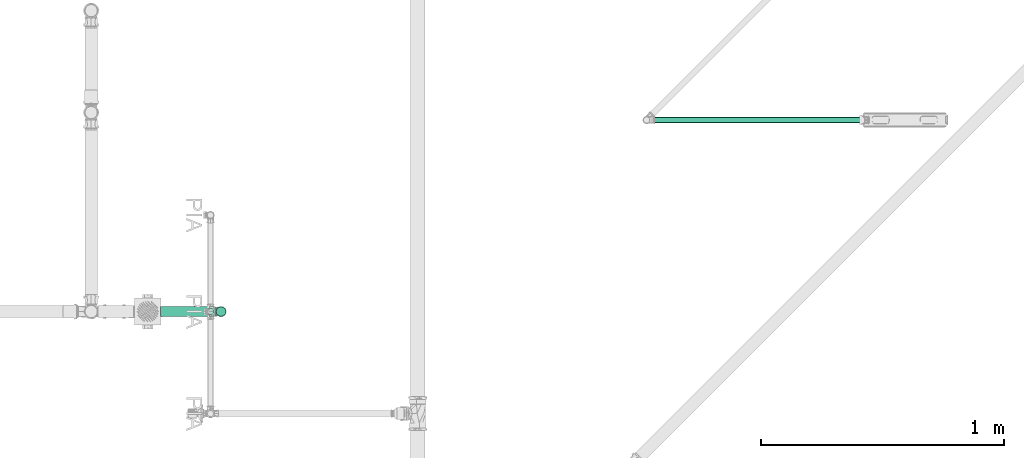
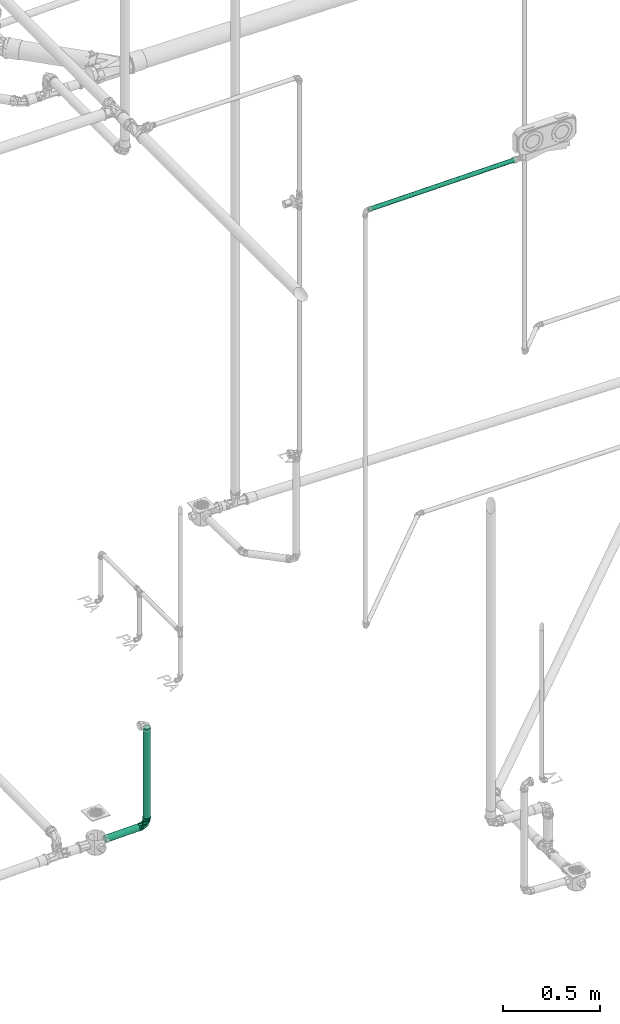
# One storey, part 130 of 589: 3 flow segments, 1 flow fitting.
"""IFC2X3 building model written with IfcOpenShell, lengths in millimetres."""

import ifcopenshell
import ifcopenshell.guid

model = None  # the IFC model being written
_history = None  # IfcOwnerHistory: only IFC2X3 demands one
_inside = {}  # id of a spatial element -> (the spatial element, [elements in it])
_under = {}  # id of a project, library or spatial element -> (it, [spatial elements below it])
_declared = {}  # id of a project -> (the project, [libraries it declares])
_typed = {}  # id of a type object -> (the type object, [elements of that type])
_made_of = {}  # id of a material, layer set ... -> (it, [elements and type objects made of it])


def new_model(schema):
    """Start an empty IFC model of exactly this schema.

    Asked for "IFC4X3", IfcOpenShell would pick the latest addendum, in which some entities
    have other attributes; the version numbers below select the first issue.
    IFC2X3 requires an IfcOwnerHistory on every rooted entity: one is made here for all.
    """
    global model, _history
    if schema == "IFC4X3":
        model = ifcopenshell.file(schema_version=(4, 3, 0, 0))
    else:
        model = ifcopenshell.file(schema=schema)
    _inside.clear()
    _under.clear()
    _declared.clear()
    _typed.clear()
    _made_of.clear()
    _history = None
    if model.schema == "IFC2X3":
        org = make("IfcOrganization", Name="unknown")
        user = make(
            "IfcPersonAndOrganization",
            ThePerson=make("IfcPerson", FamilyName="unknown"),
            TheOrganization=org,
        )
        app = make(
            "IfcApplication",
            ApplicationDeveloper=org,
            Version="unknown",
            ApplicationFullName="unknown",
            ApplicationIdentifier="unknown",
        )
        _history = make(
            "IfcOwnerHistory",
            OwningUser=user,
            OwningApplication=app,
            ChangeAction="ADDED",
            CreationDate=0,
        )
    return model


def make(cls, **values):
    """One entity of the class cls with the attributes given. An attribute that is None is left unset."""
    return model.create_entity(
        cls, **{name: value for name, value in values.items() if value is not None}
    )


def entity(cls, *values):
    """Any entity or typed value of the class cls, its attributes in the order of the schema. None: left unset."""
    e = model.create_entity(cls)
    for i, value in enumerate(values):
        if value is not None:
            e[i] = value
    return e


def rooted(cls, **values):
    """An entity with a GlobalId (a new one), such as an element, a storey or a relation."""
    return make(cls, GlobalId=ifcopenshell.guid.new(), OwnerHistory=_history, **values)


def si_unit(unit_type, name, prefix=None):
    """IfcSIUnit, for example si_unit("LENGTHUNIT", "METRE", prefix="MILLI")."""
    return make("IfcSIUnit", UnitType=unit_type, Prefix=prefix, Name=name)


def converted_unit(unit_type, name, factor, base, dimensions=None, offset=None):
    """IfcConversionBasedUnit, such as the inch: factor (a typed value) times the base unit."""
    return make(
        "IfcConversionBasedUnit"
        if offset is None
        else "IfcConversionBasedUnitWithOffset",
        ConversionOffset=offset,
        Dimensions=None
        if dimensions is None
        else entity("IfcDimensionalExponents", *dimensions),
        UnitType=unit_type,
        Name=name,
        ConversionFactor=make(
            "IfcMeasureWithUnit", ValueComponent=factor, UnitComponent=base
        ),
    )


def derived_unit(unit_type, elements):
    """IfcDerivedUnit: a product of units, each with its exponent."""
    return make(
        "IfcDerivedUnit",
        Elements=[
            make("IfcDerivedUnitElement", Unit=unit, Exponent=power)
            for unit, power in elements
        ],
        UnitType=unit_type,
    )


def assignment(units):
    """IfcUnitAssignment: the units of a project."""
    return None if units is None else make("IfcUnitAssignment", Units=units)


def point(xyz):
    """IfcCartesianPoint."""
    return None if xyz is None else make("IfcCartesianPoint", Coordinates=xyz)


def direction(xyz):
    """IfcDirection."""
    return None if xyz is None else make("IfcDirection", DirectionRatios=xyz)


def frame(location, z_axis=None, x_axis=None):
    """IfcAxis2Placement3D, a coordinate frame: its origin and axes. An axis left out is left unset."""
    return make(
        "IfcAxis2Placement3D",
        Location=point(location),
        Axis=direction(z_axis),
        RefDirection=direction(x_axis),
    )


def frame_2d(location, x_axis=None):
    """IfcAxis2Placement2D, a coordinate frame in the plane: its origin and x axis."""
    return make(
        "IfcAxis2Placement2D", Location=point(location), RefDirection=direction(x_axis)
    )


def origin():
    """The frame at (0, 0, 0) with its axes left unset."""
    return frame((0.0, 0.0, 0.0))


def origin_2d_with_axis():
    """The frame at (0, 0) in the plane with the x axis (1, 0) written out."""
    return frame_2d((0.0, 0.0), x_axis=(1.0, 0.0))


def place(relative_to, where):
    """IfcLocalPlacement: puts the frame where relative to a parent placement (None: the world)."""
    return make(
        "IfcLocalPlacement", PlacementRelTo=relative_to, RelativePlacement=where
    )


def context(
    kind, dimensions, precision=None, world=None, true_north=None, identifier=None
):
    """IfcGeometricRepresentationContext, for example the 3D "Model" context."""
    return make(
        "IfcGeometricRepresentationContext",
        ContextIdentifier=identifier,
        ContextType=kind,
        CoordinateSpaceDimension=dimensions,
        Precision=precision,
        WorldCoordinateSystem=world,
        TrueNorth=true_north,
    )


def subcontext(parent, identifier, kind, view, scale=None):
    """IfcGeometricRepresentationSubContext, for example "Body" below "Model"."""
    return make(
        "IfcGeometricRepresentationSubContext",
        ContextIdentifier=identifier,
        ContextType=kind,
        ParentContext=parent,
        TargetScale=scale,
        TargetView=view,
    )


def project(units=None, contexts=None):
    """IfcProject with its units and contexts."""
    return rooted(
        "IfcProject",
        Name="project",
        RepresentationContexts=contexts,
        UnitsInContext=assignment(units),
    )


def spatial(cls, under=None, at=None, **own):
    """A site, building, storey or space (cls), placed at a placement, below another one or the project."""
    s = rooted(cls, ObjectPlacement=at, **own)
    if under is not None:
        _under.setdefault(under.id(), (under, []))[1].append(s)
    return s


def profile(cls, at=None, kind="AREA", **sizes):
    """A parametric profile (cls). Its sizes go by their IFC names, for example OverallWidth=200.0."""
    return make(cls, ProfileType=kind, Position=at, **sizes)


def circle(**sizes):
    """IfcCircleProfileDef."""
    return profile("IfcCircleProfileDef", **sizes)


def extrude(swept, where, along, depth):
    """IfcExtrudedAreaSolid: the profile swept, set in the frame where, extruded along a direction by depth."""
    return make(
        "IfcExtrudedAreaSolid",
        SweptArea=swept,
        Position=where,
        ExtrudedDirection=direction(along),
        Depth=depth,
    )


def faces_of(points, faces, orient=None, outer=None):
    """IfcFace entities. A face is a list of loops; a loop is a list of indices into points, from 0.

    orient and outer hold one flag for each loop. By default every Orientation is true, the
    first loop of a face is its IfcFaceOuterBound and the others are IfcFaceBound.
    """
    made = []
    for i, loops in enumerate(faces):
        bounds = []
        for j, loop in enumerate(loops):
            is_outer = j == 0 if outer is None else outer[i][j]
            bounds.append(
                make(
                    "IfcFaceOuterBound" if is_outer else "IfcFaceBound",
                    Bound=make("IfcPolyLoop", Polygon=[points[k] for k in loop]),
                    Orientation=True if orient is None else orient[i][j],
                )
            )
        made.append(make("IfcFace", Bounds=bounds))
    return made


def faceted_brep(points, faces, orient=None, outer=None, voids=None):
    """IfcFacetedBrep: a solid bounded by flat faces; with voids (closed shells), ...WithVoids."""
    shared = [point(p) for p in points]
    hull = make("IfcClosedShell", CfsFaces=faces_of(shared, faces, orient, outer))
    if voids is None:
        return make("IfcFacetedBrep", Outer=hull)
    return make(
        "IfcFacetedBrepWithVoids",
        Outer=hull,
        Voids=[
            make(cls, CfsFaces=faces_of(shared, fs, o, b)) for cls, fs, o, b in voids
        ],
    )


def shape(context_of_items, identifier, shape_type, items):
    """IfcShapeRepresentation: the items that make up one representation, for example the "Body"."""
    return make(
        "IfcShapeRepresentation",
        ContextOfItems=context_of_items,
        RepresentationIdentifier=identifier,
        RepresentationType=shape_type,
        Items=items,
    )


def source(mapping_origin, context_of_items, identifier, shape_type, items):
    """IfcRepresentationMap: a shape defined once, which mapped items show again and again."""
    return make(
        "IfcRepresentationMap",
        MappingOrigin=mapping_origin,
        MappedRepresentation=shape(context_of_items, identifier, shape_type, items),
    )


def transform(
    local_origin,
    x_axis=None,
    y_axis=None,
    z_axis=None,
    scale=None,
    scale2=None,
    scale3=None,
    uniform=True,
):
    """IfcCartesianTransformationOperator3D, or its non-uniform kind. x_axis, y_axis, z_axis: its Axis1, 2, 3."""
    if uniform:
        return make(
            "IfcCartesianTransformationOperator3D",
            Axis1=direction(x_axis),
            Axis2=direction(y_axis),
            LocalOrigin=point(local_origin),
            Scale=scale,
            Axis3=direction(z_axis),
        )
    return make(
        "IfcCartesianTransformationOperator3DnonUniform",
        Axis1=direction(x_axis),
        Axis2=direction(y_axis),
        LocalOrigin=point(local_origin),
        Scale=scale,
        Axis3=direction(z_axis),
        Scale2=scale2,
        Scale3=scale3,
    )


def mapped(mapping_source, mapping_target):
    """IfcMappedItem: shows the shape of a source again, moved by a transform."""
    return make(
        "IfcMappedItem", MappingSource=mapping_source, MappingTarget=mapping_target
    )


def material(Name=None, Category=None):
    """IfcMaterial."""
    return make("IfcMaterial", Name=Name, Category=Category)


def made_of(thing, what):
    """Note that an element or type object is made of a material, layer set ...; save() writes the relation."""
    if what is not None:
        _made_of.setdefault(what.id(), (what, []))[1].append(thing)
    return thing


def type_object(cls, material=None, **own):
    """A type object (cls), such as IfcWallType, which elements share."""
    return made_of(rooted(cls, **own), material)


def type_shapes(of_type, sources):
    """Give a type object the sources (RepresentationMaps) that its elements show as mapped items."""
    of_type.RepresentationMaps = sources


def element(
    cls,
    number,
    at=None,
    inside=None,
    cuts=None,
    type_object=None,
    material=None,
    context=None,
    identifier="Body",
    shape_type=None,
    held_by="IfcProductDefinitionShape",
    body=None,
    shapes=None,
    **own,
):
    """One element of the class cls, such as IfcWall. Its Tag is "e" and its number.

    at: its placement. inside: the storey or other place that contains it. cuts: it is an
    opening in that element (IfcRelVoidsElement). A single representation is given by context,
    identifier, shape_type and body (its items); several are given by shapes. held_by: the class
    of the entity that holds the representations. save() writes the other relations.
    """
    e = rooted(cls, Tag="e%d" % number, ObjectPlacement=at, **own)
    if body is not None:
        shapes = [shape(context, identifier, shape_type, body)]
    if shapes is not None:
        e.Representation = make(held_by, Representations=shapes)
    if inside is not None:
        _inside.setdefault(inside.id(), (inside, []))[1].append(e)
    if cuts is not None:
        rooted(
            "IfcRelVoidsElement", RelatingBuildingElement=cuts, RelatedOpeningElement=e
        )
    if type_object is not None:
        _typed.setdefault(type_object.id(), (type_object, []))[1].append(e)
    return made_of(e, material)


def aggregate(whole, parts):
    """IfcRelAggregates: a whole, such as a stair, and the parts it consists of."""
    return rooted("IfcRelAggregates", RelatingObject=whole, RelatedObjects=parts)


def save(model, path):
    """Write the relations noted so far, then the file.

    IfcRelAggregates (storeys below a building ...), IfcRelContainedInSpatialStructure (elements
    in a storey), IfcRelDefinesByType, IfcRelAssociatesMaterial and IfcRelDeclares: one each for
    every whole, place, type object, material and project.
    """
    for whole, parts in _under.values():
        aggregate(whole, parts)
    for where, things in _inside.values():
        rooted(
            "IfcRelContainedInSpatialStructure",
            RelatedElements=things,
            RelatingStructure=where,
        )
    for kind, things in _typed.values():
        rooted("IfcRelDefinesByType", RelatedObjects=things, RelatingType=kind)
    for what, things in _made_of.values():
        rooted("IfcRelAssociatesMaterial", RelatedObjects=things, RelatingMaterial=what)
    for by, libraries in _declared.values():
        rooted("IfcRelDeclares", RelatingContext=by, RelatedDefinitions=libraries)
    model.write(path)


model = new_model("IFC2X3")

# Units and contexts
model_context = context("Model", 3, precision=0.01, world=origin(), true_north=direction((6.123031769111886e-17, 1.0)))
body_context = subcontext(model_context, "Body", "Model", "MODEL_VIEW")
ifc_project = project(units=[si_unit("LENGTHUNIT", "METRE", prefix="MILLI"), si_unit("AREAUNIT", "SQUARE_METRE"), si_unit("VOLUMEUNIT", "CUBIC_METRE"), converted_unit("PLANEANGLEUNIT", "DEGREE", entity("IfcRatioMeasure", 0.017453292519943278), si_unit("PLANEANGLEUNIT", "RADIAN"), dimensions=[0, 0, 0, 0, 0, 0, 0]), si_unit("MASSUNIT", "GRAM", prefix="KILO"), derived_unit("MASSDENSITYUNIT", [(si_unit("MASSUNIT", "GRAM", prefix="KILO"), 1), (si_unit("LENGTHUNIT", "METRE"), -3)]), derived_unit("IONCONCENTRATIONUNIT", [(si_unit("MASSUNIT", "GRAM", prefix="KILO"), 1), (si_unit("LENGTHUNIT", "METRE"), -3)]), derived_unit("MOMENTOFINERTIAUNIT", [(si_unit("LENGTHUNIT", "METRE"), 4)]), si_unit("TIMEUNIT", "SECOND"), si_unit("FREQUENCYUNIT", "HERTZ"), si_unit("THERMODYNAMICTEMPERATUREUNIT", "DEGREE_CELSIUS"), derived_unit("THERMALTRANSMITTANCEUNIT", [(si_unit("MASSUNIT", "GRAM", prefix="KILO"), 1), (si_unit("THERMODYNAMICTEMPERATUREUNIT", "KELVIN"), -1), (si_unit("TIMEUNIT", "SECOND"), -3)]), derived_unit("THERMALCONDUCTANCEUNIT", [(si_unit("MASSUNIT", "GRAM", prefix="KILO"), 1), (si_unit("THERMODYNAMICTEMPERATUREUNIT", "KELVIN"), -1), (si_unit("TIMEUNIT", "SECOND"), -3), (si_unit("LENGTHUNIT", "METRE"), 1)]), derived_unit("VOLUMETRICFLOWRATEUNIT", [(si_unit("LENGTHUNIT", "METRE"), 3), (si_unit("TIMEUNIT", "SECOND"), -1)]), derived_unit("MASSFLOWRATEUNIT", [(si_unit("MASSUNIT", "GRAM", prefix="KILO"), 1), (si_unit("TIMEUNIT", "SECOND"), -1)]), derived_unit("ROTATIONALFREQUENCYUNIT", [(si_unit("TIMEUNIT", "SECOND"), -1)]), si_unit("ELECTRICCURRENTUNIT", "AMPERE"), si_unit("ELECTRICVOLTAGEUNIT", "VOLT"), si_unit("POWERUNIT", "WATT"), si_unit("FORCEUNIT", "NEWTON", prefix="KILO"), si_unit("ILLUMINANCEUNIT", "LUX"), si_unit("LUMINOUSFLUXUNIT", "LUMEN"), si_unit("LUMINOUSINTENSITYUNIT", "CANDELA"), derived_unit("USERDEFINED", [(si_unit("MASSUNIT", "GRAM", prefix="KILO"), -1), (si_unit("LENGTHUNIT", "METRE"), -2), (si_unit("TIMEUNIT", "SECOND"), 3), (si_unit("LUMINOUSFLUXUNIT", "LUMEN"), 1)]), derived_unit("USERDEFINED", [(si_unit("MASSUNIT", "GRAM", prefix="KILO"), 1), (si_unit("TIMEUNIT", "SECOND"), -3), (si_unit("LENGTHUNIT", "METRE"), 3), (si_unit("ELECTRICCURRENTUNIT", "AMPERE"), -2)]), derived_unit("SOUNDPOWERUNIT", [(si_unit("MASSUNIT", "GRAM", prefix="KILO"), 1), (si_unit("TIMEUNIT", "SECOND"), -3), (si_unit("LENGTHUNIT", "METRE"), 2)]), derived_unit("SOUNDPRESSUREUNIT", [(si_unit("MASSUNIT", "GRAM", prefix="KILO"), 1), (si_unit("LENGTHUNIT", "METRE"), -1), (si_unit("TIMEUNIT", "SECOND"), -2)]), derived_unit("LINEARVELOCITYUNIT", [(si_unit("LENGTHUNIT", "METRE"), 1), (si_unit("TIMEUNIT", "SECOND"), -1)]), si_unit("PRESSUREUNIT", "PASCAL"), derived_unit("USERDEFINED", [(si_unit("MASSUNIT", "GRAM", prefix="KILO"), 1), (si_unit("LENGTHUNIT", "METRE"), -2), (si_unit("TIMEUNIT", "SECOND"), -2)]), derived_unit("LINEARFORCEUNIT", [(si_unit("MASSUNIT", "GRAM", prefix="KILO"), 1), (si_unit("TIMEUNIT", "SECOND"), -2)]), derived_unit("PLANARFORCEUNIT", [(si_unit("MASSUNIT", "GRAM", prefix="KILO"), 1), (si_unit("LENGTHUNIT", "METRE"), -1), (si_unit("TIMEUNIT", "SECOND"), -2)]), derived_unit("SPECIFICHEATCAPACITYUNIT", [(si_unit("THERMODYNAMICTEMPERATUREUNIT", "KELVIN"), -1), (si_unit("LENGTHUNIT", "METRE"), 2), (si_unit("TIMEUNIT", "SECOND"), -2)]), derived_unit("HEATINGVALUEUNIT", [(si_unit("LENGTHUNIT", "METRE"), 2), (si_unit("TIMEUNIT", "SECOND"), -2)]), derived_unit("VAPORPERMEABILITYUNIT", [(si_unit("LENGTHUNIT", "METRE"), -1), (si_unit("TIMEUNIT", "SECOND"), 1)]), derived_unit("DYNAMICVISCOSITYUNIT", [(si_unit("MASSUNIT", "GRAM", prefix="KILO"), 1), (si_unit("TIMEUNIT", "SECOND"), -1), (si_unit("LENGTHUNIT", "METRE"), -1)]), derived_unit("THERMALEXPANSIONCOEFFICIENTUNIT", [(si_unit("THERMODYNAMICTEMPERATUREUNIT", "KELVIN"), -1)]), derived_unit("MODULUSOFELASTICITYUNIT", [(si_unit("MASSUNIT", "GRAM", prefix="KILO"), 1), (si_unit("LENGTHUNIT", "METRE"), -1), (si_unit("TIMEUNIT", "SECOND"), -2)]), derived_unit("ISOTHERMALMOISTURECAPACITYUNIT", [(si_unit("LENGTHUNIT", "METRE"), 3), (si_unit("MASSUNIT", "GRAM", prefix="KILO"), -1)]), derived_unit("MOISTUREDIFFUSIVITYUNIT", [(si_unit("TIMEUNIT", "SECOND"), -1), (si_unit("LENGTHUNIT", "METRE"), 2)])], contexts=[model_context])

# Site, building, storey
site_placement = place(None, origin())
site = spatial("IfcSite", under=ifc_project, at=site_placement, Name="Default", CompositionType="ELEMENT")
building_placement = place(site_placement, origin())
building = spatial("IfcBuilding", under=site, at=building_placement, CompositionType="ELEMENT")
storey_placement = place(building_placement, frame((0.0, 0.0, 100.0)))
storey = spatial("IfcBuildingStorey", under=building, at=storey_placement, Name="TÉRREO", CompositionType="ELEMENT", Elevation=100.0)

# Flow segments
pipe_segment_type_1 = type_object("IfcPipeSegmentType", Name="Tipos de tubos:PVC Esgoto Série Normal", PredefinedType="NOTDEFINED")
flow_segment_1_placement = place(storey_placement, origin())
element("IfcFlowSegment", 1, at=flow_segment_1_placement, inside=storey, type_object=pipe_segment_type_1, Name="Tipos de tubos:PVC Esgoto Série Normal", ObjectType="Tipos de tubos:PVC Esgoto Série Normal", context=body_context, shape_type="SweptSolid", body=[
    extrude(circle(Radius=20.0, at=frame_2d((1.353583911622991e-13, -1.6916415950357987e-14), x_axis=(1.0, 0.0))), frame((2985.7622651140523, 697.7290075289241, -187.41516176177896), z_axis=(0.9998000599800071, 0.0, 0.01999600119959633), x_axis=(0.0, 1.0, 0.0)), (0.0, 0.0, 1.0), 216.4612513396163),
])
flow_segment_2_placement = place(storey_placement, origin())
element("IfcFlowSegment", 2, at=flow_segment_2_placement, inside=storey, type_object=pipe_segment_type_1, Name="Tipos de tubos:PVC Esgoto Série Normal", ObjectType="Tipos de tubos:PVC Esgoto Série Normal", context=body_context, shape_type="SweptSolid", body=[
    extrude(circle(Radius=20.0, at=origin_2d_with_axis()), frame((3234.3797973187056, 697.729007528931, -150.23681171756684)), (0.0, 0.0, 1.0), 580.0368256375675),
])

# Flow fitting
ifc_material = material(Name="PVC Branco")
pipe_fitting_type = type_object("IfcPipeFittingType", Name="PVC Esgoto_Curva 90° Curta:a. Série Normal", PredefinedType="NOTDEFINED", material=ifc_material)
shared_shape = source(origin(), body_context, "Body", "Brep", [
    faceted_brep([(17.961036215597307, 31.85321923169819, 10.0), (20.63999240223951, 31.79964010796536, 0.0), (17.961036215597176, 31.853219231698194, -10.0), (5.819337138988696, 32.09605321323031, -19.318516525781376), (-4.531354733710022, 32.30306705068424, -19.31851652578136), (-16.67305381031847, 32.545901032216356, -10.0), (-19.352009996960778, 32.59948015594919, 0.0), (-16.673053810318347, 32.54590103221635, 10.0), (-4.531354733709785, 32.303067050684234, 19.318516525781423), (5.819337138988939, 32.096053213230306, 19.318516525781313), (19.378093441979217, 29.02431814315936, 6.84041311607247), (15.905813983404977, 29.093763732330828, 12.855768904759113), (20.584003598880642, 29.000199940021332, 0.0), (7.427001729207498, 29.263339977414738, 18.793865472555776), (0.5880023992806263, 29.40011996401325, 20.0), (-12.265223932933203, 29.657184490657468, 15.320851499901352), (-18.202100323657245, 29.775922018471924, 6.840381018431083), (-19.407998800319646, 29.800039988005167, 0.0), (-6.251109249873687, 29.536902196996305, 18.79382458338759), (-18.202100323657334, 29.775922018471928, -6.840381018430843), (-14.729853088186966, 29.70647707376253, -12.855716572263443), (-6.25110924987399, 29.53690219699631, -18.79382458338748), (0.588002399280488, 29.40011996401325, -20.0), (13.441163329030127, 29.143056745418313, -15.32090639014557), (19.378093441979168, 29.02431814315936, -6.8404131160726), (7.427001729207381, 29.263339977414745, -18.79386547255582), (-11.35075352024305, -12.626805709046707, 0.0), (-29.405999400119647, -18.793848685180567, 6.8404131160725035), (-29.405999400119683, -19.396924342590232, 3.420206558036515), (-29.405999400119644, -20.0, 0.0), (-29.40599940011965, -15.320874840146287, 12.855768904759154), (-29.405999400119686, -17.057361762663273, 9.848091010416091), (-2.3339581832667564, 2.3811033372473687, 18.02101843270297), (-29.40599940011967, -6.840366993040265, 18.793865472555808), (-29.405999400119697, -11.080620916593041, 15.824817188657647), (-29.405999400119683, 0.0, 20.0), (-29.40599940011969, -3.420183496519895, 19.396932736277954), (-12.878045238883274, 13.138181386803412, 18.95216884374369), (12.851249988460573, 11.095996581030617, 0.0), (5.594072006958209, -5.707072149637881, 0.0), (-29.405999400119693, 6.840479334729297, 18.79382458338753), (-29.405999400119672, 3.4202396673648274, 19.396912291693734), (-29.405999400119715, 18.793860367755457, 6.840381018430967), (-29.405999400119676, 15.824828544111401, 11.080616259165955), (-29.405999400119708, 12.855796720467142, 15.320851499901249), (-22.405985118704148, 22.858585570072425, 0.0), (-29.40599940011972, 20.0, 0.0), (-29.405999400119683, 19.396930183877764, 3.4201905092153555), (-29.405999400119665, 9.848138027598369, 17.0573380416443), (-14.138248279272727, 14.423838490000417, -18.24666465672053), (-29.405999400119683, 0.0, -20.0), (-29.40599940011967, 3.4202396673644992, -19.396912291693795), (-29.405999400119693, 6.840479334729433, -18.79382458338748), (-29.405999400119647, -18.79384868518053, -6.840413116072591), (-29.40599940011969, -15.824789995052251, -11.080659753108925), (-29.405999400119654, -12.85573130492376, -15.32090639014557), (-2.333957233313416, 2.3811024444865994, -18.021017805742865), (-29.405999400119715, 18.793860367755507, -6.840381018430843), (-29.405999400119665, 11.080699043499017, -15.824770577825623), (-29.405999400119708, 15.320918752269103, -12.855716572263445), (-29.405999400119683, -19.396924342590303, -3.420206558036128), (-29.405999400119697, -9.848049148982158, -17.0573859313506), (-29.40599940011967, -6.840366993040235, -18.79386547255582), (-29.40599940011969, -3.420183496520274, -19.396932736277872), (-29.405999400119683, 19.39693018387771, -3.4201905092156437), (-29.405999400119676, 17.05738956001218, -9.848048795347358), (-30.20599940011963, -8.21241269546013, -16.988887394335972), (-30.20599940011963, -11.248444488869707, -14.659258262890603), (-30.20599940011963, -14.28447628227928, -12.329629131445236), (-30.20599940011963, -17.320508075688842, -10.0), (-30.20599940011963, -18.66025403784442, -5.0), (-30.20599940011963, -20.0, 0.0), (-30.20599940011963, -18.660254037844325, 5.0), (-30.20599940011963, -17.320508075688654, 10.0), (-30.20599940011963, -14.284476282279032, 12.329629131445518), (-30.20599940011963, -11.248444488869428, 14.659258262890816), (-30.20599940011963, -8.21241269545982, 16.988887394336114), (-30.20599940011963, -5.1763809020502, 19.318516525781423), (-30.20599940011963, 0.0, 19.31851652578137), (-30.20599940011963, 5.176380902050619, 19.318516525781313), (-30.20599940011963, 8.21241269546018, 16.98888739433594), (-30.20599940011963, 11.248444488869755, 14.65925826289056), (-30.205999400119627, 14.284476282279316, 12.329629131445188), (-30.20599940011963, 17.320508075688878, 10.0), (-30.20599940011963, 18.66025403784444, 5.0), (-30.20599940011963, 20.0, 0.0), (-30.20599940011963, 18.66025403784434, -5.0), (-30.20599940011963, 17.32050807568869, -10.0), (-30.20599940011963, 14.284476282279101, -12.329629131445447), (-30.20599940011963, 11.24844448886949, -14.659258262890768), (-30.20599940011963, 8.212412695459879, -16.988887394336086), (-30.20599940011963, 5.1763809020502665, -19.318516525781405), (-30.20599940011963, 0.0, -19.318516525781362), (-30.20599940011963, -5.176380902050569, -19.318516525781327)], [[[0, 1, 2, 3, 4, 5, 6, 7, 8, 9]], [[10, 1, 0]], [[11, 0, 9]], [[12, 1, 10]], [[11, 10, 0]], [[13, 11, 9]], [[9, 14, 13]], [[15, 8, 7]], [[7, 6, 16]], [[17, 16, 6]], [[14, 8, 18]], [[15, 18, 8]], [[16, 15, 7]], [[8, 14, 9]], [[19, 6, 5]], [[20, 5, 4]], [[17, 6, 19]], [[20, 19, 5]], [[21, 20, 4]], [[4, 22, 21]], [[23, 3, 2]], [[2, 1, 24]], [[12, 24, 1]], [[22, 3, 25]], [[23, 25, 3]], [[24, 23, 2]], [[3, 22, 4]], [[26, 27, 28, 29]], [[26, 30, 31, 27]], [[32, 33, 34, 30]], [[32, 35, 36, 33]], [[35, 32, 37]], [[11, 38, 10]], [[26, 32, 30]], [[32, 39, 38]], [[37, 40, 41, 35]], [[37, 42, 43, 44]], [[45, 46, 47, 42]], [[16, 45, 42]], [[37, 44, 48, 40]], [[39, 32, 26]], [[14, 18, 37]], [[32, 11, 13]], [[14, 37, 32]], [[32, 38, 11]], [[12, 10, 38]], [[45, 16, 17]], [[37, 15, 16]], [[37, 16, 42]], [[15, 37, 18]], [[32, 13, 14]], [[49, 50, 51, 52]], [[49, 21, 22]], [[26, 53, 54, 55]], [[56, 39, 26]], [[49, 57, 19]], [[49, 52, 58, 59]], [[56, 50, 49]], [[26, 29, 60, 53]], [[56, 55, 61, 62]], [[56, 62, 63, 50]], [[26, 55, 56]], [[45, 57, 64, 46]], [[45, 17, 19]], [[24, 12, 38]], [[23, 56, 25]], [[49, 20, 21]], [[49, 19, 20]], [[56, 49, 22]], [[56, 23, 38]], [[49, 59, 65, 57]], [[38, 39, 56]], [[24, 38, 23]], [[56, 22, 25]], [[19, 57, 45]], [[66, 67, 68, 69, 70, 71, 72, 73, 74, 75, 76, 77, 78, 79, 80, 81, 82, 83, 84, 85, 86, 87, 88, 89, 90, 91, 92, 93]], [[47, 46, 85]], [[33, 77, 76]], [[80, 40, 48]], [[48, 44, 81]], [[33, 76, 34]], [[81, 80, 48]], [[84, 83, 42]], [[82, 81, 44]], [[73, 72, 27]], [[85, 84, 47]], [[78, 41, 79]], [[77, 36, 78]], [[30, 75, 74, 73]], [[73, 27, 31, 30]], [[77, 33, 36]], [[71, 28, 72]], [[44, 43, 82]], [[36, 35, 78]], [[41, 40, 79]], [[34, 76, 75]], [[43, 42, 83]], [[75, 30, 34]], [[41, 78, 35]], [[84, 42, 47]], [[80, 79, 40]], [[43, 83, 82]], [[28, 71, 29]], [[28, 27, 72]], [[60, 29, 71]], [[52, 91, 90]], [[66, 62, 61]], [[61, 55, 67]], [[52, 90, 58]], [[67, 66, 61]], [[70, 69, 53]], [[68, 67, 55]], [[87, 86, 57]], [[71, 70, 60]], [[92, 63, 93]], [[91, 51, 92]], [[59, 89, 88, 87]], [[87, 57, 65, 59]], [[91, 52, 51]], [[85, 64, 86]], [[55, 54, 68]], [[51, 50, 92]], [[63, 62, 93]], [[90, 89, 58]], [[54, 53, 69]], [[89, 59, 58]], [[63, 92, 50]], [[70, 53, 60]], [[66, 93, 62]], [[54, 69, 68]], [[64, 85, 46]], [[64, 57, 86]]]),
    faceted_brep([(-32.20599940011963, -17.320508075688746, -10.0), (-32.20599940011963, -20.0, 0.0), (-32.20599940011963, -17.320508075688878, 10.0), (-32.20599940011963, -5.176380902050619, 19.318516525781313), (-32.20599940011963, 5.1763809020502, 19.318516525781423), (-32.20599940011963, 17.320508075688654, 10.0), (-32.20599940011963, 20.0, 0.0), (-32.20599940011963, 17.320508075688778, -10.0), (-32.20599940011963, 5.17638090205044, -19.31851652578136), (-32.20599940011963, -5.176380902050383, -19.318516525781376), (-29.40599940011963, -20.0, 0.0), (-29.40599940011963, -15.320920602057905, 12.855714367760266), (-29.40599940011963, 3.4728419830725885, 19.696176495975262), (-29.40599940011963, 15.320777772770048, 12.855884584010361), (-29.40599940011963, 20.0, 0.0), (-29.40599940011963, 15.320777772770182, -12.855884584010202), (-29.405999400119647, 5.923858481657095, -16.27601124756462), (-29.40599940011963, -3.473060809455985, -19.69613791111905), (-29.40599940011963, -15.320920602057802, -12.855714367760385), (12.85124998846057, 11.095996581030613, 0.0), (19.378093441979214, 29.024318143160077, 6.8404131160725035), (16.409628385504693, 29.083687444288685, 11.080659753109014), (13.441163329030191, 29.143056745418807, 15.320906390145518), (5.594072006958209, -5.707072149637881, 0.0), (-3.0189256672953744, 1.4413580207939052, 17.919138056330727), (-11.350753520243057, -12.626805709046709, 0.0), (-13.807968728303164, 12.593198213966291, 18.87014454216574), (-6.251109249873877, 29.53690219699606, 18.793824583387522), (-10.490481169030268, 29.621689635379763, 15.824770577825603), (-14.729853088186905, 29.70647707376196, 12.855716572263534), (-22.405985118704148, 22.858585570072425, 0.0), (-18.20210032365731, 29.775922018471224, 6.84038101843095), (-18.805049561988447, 29.787981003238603, 3.4201905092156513), (-19.407998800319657, 29.80003998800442, 0.0), (7.427001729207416, 29.26333997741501, 18.793865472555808), (4.007502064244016, 29.331729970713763, 19.396932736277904), (0.5880023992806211, 29.400119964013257, 20.0), (10.434082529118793, 29.203198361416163, 17.057385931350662), (20.58400359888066, 29.000199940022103, 0.0), (19.981048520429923, 29.012259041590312, 3.420206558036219), (-2.8315534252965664, 29.46851108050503, 19.396912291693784), (-16.465976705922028, 29.74119954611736, 9.84804879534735), (-12.878069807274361, 13.13814230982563, -18.95217245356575), (-12.265223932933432, 29.657184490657, -15.32085149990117), (-9.258166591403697, 29.59704334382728, -17.057338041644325), (-6.251109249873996, 29.53690219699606, -18.79382458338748), (-18.202100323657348, 29.775922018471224, -6.840381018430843), (-2.142006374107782, 2.6554433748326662, -18.049846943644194), (-18.80504956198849, 29.787981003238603, -3.4201905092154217), (-15.233662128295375, 29.716553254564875, -11.080616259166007), (19.378093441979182, 29.02431814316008, -6.840413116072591), (19.981048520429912, 29.012259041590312, -3.4202065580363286), (0.5880023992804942, 29.400119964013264, -20.0), (4.0075020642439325, 29.331729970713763, -19.396932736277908), (7.427001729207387, 29.26333997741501, -18.79386547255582), (11.666407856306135, 29.178551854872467, -15.824817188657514), (15.905813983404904, 29.09376373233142, -12.855768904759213), (17.64195371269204, 29.05904093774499, -9.8480910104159), (-2.831553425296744, 29.46851108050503, -19.39691229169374), (-4.571346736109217, 30.303466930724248, -19.31851652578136), (-7.60677150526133, 30.364175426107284, -16.988887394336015), (-10.64219627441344, 30.424883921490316, -14.659258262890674), (-13.677621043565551, 30.48559241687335, -12.329629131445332), (-16.713045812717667, 30.54630091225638, -10.0), (-18.052523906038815, 30.573090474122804, -5.0), (-19.392001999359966, 30.599880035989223, 0.0), (-18.052523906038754, 30.573090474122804, 5.0), (-16.71304581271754, 30.54630091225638, 10.0), (-13.67762104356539, 30.48559241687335, 12.329629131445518), (-10.642196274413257, 30.424883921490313, 14.659258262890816), (-7.606771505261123, 30.364175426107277, 16.988887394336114), (-4.571346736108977, 30.303466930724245, 19.318516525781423), (0.6039992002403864, 30.199960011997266, 19.31851652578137), (5.779345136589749, 30.096453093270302, 19.318516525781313), (8.814769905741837, 30.035744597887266, 16.98888739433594), (11.85019467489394, 29.975036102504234, 14.65925826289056), (14.885619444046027, 29.9143276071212, 12.329629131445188), (17.92104421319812, 29.853619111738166, 10.0), (19.26052230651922, 29.82682954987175, 5.0), (20.60000039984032, 29.80003998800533, 0.0), (19.260522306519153, 29.82682954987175, -5.0), (17.921044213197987, 29.85361911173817, -10.0), (14.885619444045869, 29.914327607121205, -12.329629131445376), (11.850194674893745, 29.975036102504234, -14.659258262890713), (8.814769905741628, 30.03574459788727, -16.988887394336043), (5.779345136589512, 30.096453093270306, -19.318516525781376), (0.6039992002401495, 30.199960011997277, -19.31851652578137)], [[[0, 1, 2, 3, 4, 5, 6, 7, 8, 9]], [[10, 11, 2]], [[10, 2, 1]], [[2, 11, 3]], [[11, 12, 3]], [[4, 12, 13]], [[5, 13, 14]], [[13, 5, 4]], [[5, 14, 6]], [[12, 4, 3]], [[14, 15, 7]], [[14, 7, 6]], [[7, 15, 8]], [[8, 15, 16, 17]], [[9, 17, 18]], [[0, 18, 10]], [[18, 0, 9]], [[0, 10, 1]], [[17, 9, 8]], [[19, 20, 21, 22]], [[23, 24, 25]], [[26, 13, 12]], [[25, 24, 11]], [[24, 23, 19]], [[26, 27, 28, 29]], [[14, 13, 30]], [[11, 10, 25]], [[30, 31, 32, 33]], [[31, 30, 13]], [[24, 34, 35, 36]], [[24, 26, 12]], [[24, 22, 37, 34]], [[11, 24, 12]], [[19, 38, 39, 20]], [[26, 36, 40, 27]], [[13, 29, 41, 31]], [[13, 26, 29]], [[36, 26, 24]], [[22, 24, 19]], [[15, 14, 30]], [[42, 43, 44, 45]], [[15, 30, 46]], [[16, 15, 42, 17]], [[47, 25, 18]], [[47, 18, 17]], [[42, 15, 46]], [[30, 33, 48, 46]], [[42, 46, 49, 43]], [[19, 50, 51, 38]], [[47, 52, 53, 54]], [[47, 54, 55, 56]], [[42, 52, 47]], [[19, 56, 57, 50]], [[25, 47, 23]], [[19, 23, 47]], [[25, 10, 18]], [[19, 47, 56]], [[17, 42, 47]], [[42, 45, 58, 52]], [[59, 60, 61, 62, 63, 64, 65, 66, 67, 68, 69, 70, 71, 72, 73, 74, 75, 76, 77, 78, 79, 80, 81, 82, 83, 84, 85, 86]], [[39, 38, 79]], [[21, 77, 76]], [[74, 34, 37]], [[37, 22, 75]], [[79, 78, 39]], [[75, 74, 37]], [[74, 73, 34]], [[76, 75, 22]], [[22, 21, 76]], [[78, 77, 20]], [[72, 35, 73]], [[27, 70, 28]], [[29, 69, 68, 67]], [[67, 31, 41, 29]], [[71, 27, 40]], [[65, 32, 66]], [[71, 40, 72]], [[40, 36, 72]], [[67, 66, 31]], [[28, 70, 69]], [[35, 34, 73]], [[69, 29, 28]], [[35, 72, 36]], [[78, 20, 39]], [[21, 20, 77]], [[27, 71, 70]], [[32, 65, 33]], [[32, 31, 66]], [[48, 33, 65]], [[54, 85, 84]], [[60, 45, 44]], [[44, 43, 61]], [[54, 84, 55]], [[61, 60, 44]], [[64, 63, 46]], [[62, 61, 43]], [[81, 80, 50]], [[65, 64, 48]], [[86, 58, 59]], [[85, 53, 86]], [[56, 83, 82, 81]], [[81, 50, 57, 56]], [[85, 54, 53]], [[79, 51, 80]], [[43, 49, 62]], [[53, 52, 86]], [[58, 45, 59]], [[55, 84, 83]], [[49, 46, 63]], [[83, 56, 55]], [[58, 86, 52]], [[64, 46, 48]], [[60, 59, 45]], [[49, 63, 62]], [[51, 79, 38]], [[51, 50, 80]]]),
    faceted_brep([(5.819337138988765, 32.09605321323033, 19.31851652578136), (17.961036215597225, 31.853219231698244, 10.0), (20.63999240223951, 31.799640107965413, 0.0), (17.96103621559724, 31.853219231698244, -10.0), (5.8193371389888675, 32.09605321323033, -19.318516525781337), (-4.531354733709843, 32.30306705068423, -19.31851652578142), (-16.67305381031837, 32.54590103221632, -10.0), (-19.352009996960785, 32.59948015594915, 0.0), (-16.673053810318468, 32.54590103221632, 10.0), (-4.531354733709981, 32.303067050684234, 19.318516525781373), (-4.571346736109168, 30.303466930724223, 19.318516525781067), (-16.713045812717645, 30.54630091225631, 10.0), (-19.39200199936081, 30.599880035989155, 0.0), (-16.713045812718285, 30.546300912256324, -10.0), (-4.571346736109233, 30.303466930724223, -19.318516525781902), (5.779345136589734, 30.096453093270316, -19.31851652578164), (17.92104421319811, 29.853619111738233, -10.0), (20.60000039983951, 29.800039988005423, 0.0), (17.92104421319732, 29.853619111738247, 10.0), (5.779345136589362, 30.096453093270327, 19.31851652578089), (16.960145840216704, 31.873237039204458, -13.688192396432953), (21.93973248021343, 31.77364530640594, 0.0), (4.344880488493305, 32.12554234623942, -20.97588948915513), (-20.651750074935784, 32.625474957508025, 0.0), (-15.668729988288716, 32.52581455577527, -13.692285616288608), (-5.661924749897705, 32.32567845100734, -17.33408755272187), (-15.668729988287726, 32.52581455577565, 13.69228561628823), (-3.0516373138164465, 32.27347270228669, 20.976817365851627), (16.960145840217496, 31.87323703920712, 13.688192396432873), (6.954254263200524, 32.073354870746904, 17.332504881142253), (-4.507824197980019, 50.30619608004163, -20.574220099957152), (-4.171426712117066, 50.29946813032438, -19.318516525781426), (6.1792651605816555, 50.09245429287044, -19.318516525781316), (-17.438733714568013, 50.56481427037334, -10.649999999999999), (6.515662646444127, 50.0857263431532, -20.57422009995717), (-16.31312578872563, 50.54230211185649, -10.0), (-18.99208197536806, 50.59588123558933, 0.0), (-20.29182205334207, 50.62187603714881, 0.0), (-16.313125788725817, 50.54230211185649, 10.0), (-17.438733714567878, 50.56481427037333, 10.650000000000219), (-4.1714267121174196, 50.29946813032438, 19.318516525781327), (-4.5078241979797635, 50.30619608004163, 20.574220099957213), (6.179265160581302, 50.09245429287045, 19.3185165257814), (6.515662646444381, 50.08572634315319, 20.574220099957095), (18.320964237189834, 49.84962031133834, 10.0), (19.446572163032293, 49.827108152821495, 10.649999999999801), (22.299660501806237, 49.770046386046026, 0.0), (20.99992042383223, 49.796041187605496, 0.0), (19.44657216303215, 49.8271081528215, -10.650000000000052), (18.320964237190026, 49.84962031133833, -10.0)], [[[0, 1, 2, 3, 4, 5, 6, 7, 8, 9]], [[10, 11, 12, 13, 14, 15, 16, 17, 18, 19]], [[16, 15, 20]], [[17, 16, 21]], [[21, 16, 20]], [[15, 22, 20]], [[23, 13, 12]], [[24, 14, 13]], [[15, 14, 22]], [[23, 24, 13]], [[25, 22, 14, 24]], [[11, 10, 26]], [[12, 11, 23]], [[23, 11, 26]], [[10, 27, 26]], [[21, 18, 17]], [[28, 19, 18]], [[10, 19, 27]], [[21, 28, 18]], [[29, 27, 19, 28]], [[30, 31, 32]], [[31, 30, 33]], [[32, 34, 30]], [[33, 35, 31]], [[33, 36, 35]], [[36, 33, 37]], [[38, 36, 37]], [[38, 37, 39]], [[39, 40, 38]], [[39, 41, 40]], [[40, 41, 42]], [[43, 42, 41]], [[43, 44, 42]], [[44, 43, 45]], [[46, 44, 45]], [[47, 44, 46]], [[48, 47, 46]], [[48, 49, 47]], [[49, 48, 34]], [[34, 32, 49]], [[46, 45, 21]], [[45, 28, 21]], [[28, 45, 43]], [[43, 27, 29, 28]], [[26, 41, 39]], [[23, 39, 37]], [[41, 26, 27]], [[26, 39, 23]], [[41, 27, 43]], [[37, 33, 23]], [[33, 24, 23]], [[24, 33, 30]], [[30, 22, 25, 24]], [[20, 34, 48]], [[21, 48, 46]], [[34, 20, 22]], [[20, 48, 21]], [[34, 22, 30]], [[3, 2, 47, 49]], [[4, 3, 49, 32]], [[32, 31, 5, 4]], [[6, 5, 31, 35]], [[7, 6, 35, 36]], [[8, 7, 36, 38]], [[9, 8, 38, 40]], [[40, 42, 0, 9]], [[1, 0, 42, 44]], [[2, 1, 44, 47]]]),
    faceted_brep([(-50.20599940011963, -5.512845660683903, -20.574220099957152), (-50.20599940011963, -5.176380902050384, -19.318516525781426), (-50.20599940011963, 5.176380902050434, -19.318516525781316), (-50.20599940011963, -18.446341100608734, -10.649999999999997), (-50.20599940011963, 5.512845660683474, -20.57422009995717), (-50.20599940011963, -17.320508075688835, -10.0), (-50.20599940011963, -20.0, 0.0), (-50.20599940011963, -21.300000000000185, 0.0), (-50.20599940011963, -17.320508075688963, 10.0), (-50.20599940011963, -18.4463411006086, 10.650000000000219), (-50.20599940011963, -5.176380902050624, 19.318516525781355), (-50.20599940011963, -5.512845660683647, 20.574220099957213), (-50.20599940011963, 5.176380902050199, 19.318516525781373), (-50.20599940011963, 5.512845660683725, 20.574220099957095), (-50.20599940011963, 17.320508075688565, 10.0), (-50.20599940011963, 18.44634110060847, 10.649999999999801), (-50.20599940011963, 21.299999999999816, 0.0), (-50.20599940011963, 20.0, 0.0), (-50.20599940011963, 18.446341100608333, -10.650000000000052), (-50.20599940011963, 17.320508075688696, -10.0), (-32.20599940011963, 21.299999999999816, 0.0), (-32.205999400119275, 16.319417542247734, 13.688192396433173), (-32.205999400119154, 3.701629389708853, 20.975889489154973), (-32.20599940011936, -16.315983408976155, 13.692285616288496), (-32.20599940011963, -21.300000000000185, 0.0), (-32.20599940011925, -6.307177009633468, 17.334087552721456), (-32.20599940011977, -16.31598340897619, -13.692285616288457), (-32.20599940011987, -3.6963675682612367, -20.976817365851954), (-32.2059994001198, 16.319417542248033, -13.688192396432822), (-32.20599940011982, 6.311524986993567, -17.332504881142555), (-32.20599940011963, -5.176380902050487, 19.31851652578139), (-32.20599940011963, 5.176380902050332, 19.318516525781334), (-32.20599940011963, 17.320508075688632, 10.0), (-32.20599940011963, 20.0, 0.0), (-32.20599940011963, 17.320508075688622, -10.0), (-32.20599940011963, 5.176380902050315, -19.318516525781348), (-32.20599940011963, -5.1763809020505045, -19.318516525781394), (-32.20599940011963, -17.3205080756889, -10.0), (-32.20599940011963, -20.0, 0.0), (-32.20599940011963, -17.32050807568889, 10.0), (-30.20599940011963, -5.176380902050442, 19.31851652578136), (-30.20599940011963, -17.320508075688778, 10.0), (-30.20599940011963, -20.0, 0.0), (-30.20599940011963, -17.320508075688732, -10.0), (-30.20599940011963, -5.176380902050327, -19.318516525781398), (-30.20599940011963, 5.176380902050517, -19.318516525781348), (-30.20599940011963, 17.320508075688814, -10.0), (-30.20599940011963, 20.0, 0.0), (-30.20599940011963, 17.320508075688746, 10.0), (-30.20599940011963, 5.176380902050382, 19.318516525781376)], [[[0, 1, 2]], [[1, 0, 3]], [[2, 4, 0]], [[3, 5, 1]], [[3, 6, 5]], [[6, 3, 7]], [[8, 6, 7]], [[8, 7, 9]], [[9, 10, 8]], [[9, 11, 10]], [[10, 11, 12]], [[13, 12, 11]], [[13, 14, 12]], [[14, 13, 15]], [[16, 14, 15]], [[17, 14, 16]], [[18, 17, 16]], [[18, 19, 17]], [[19, 18, 4]], [[4, 2, 19]], [[16, 15, 20]], [[15, 21, 20]], [[21, 15, 13]], [[21, 13, 22]], [[23, 11, 9]], [[24, 9, 7]], [[11, 23, 25, 22]], [[23, 9, 24]], [[11, 22, 13]], [[7, 3, 24]], [[3, 26, 24]], [[26, 3, 0]], [[26, 0, 27]], [[28, 4, 18]], [[20, 18, 16]], [[4, 28, 29, 27]], [[28, 18, 20]], [[4, 27, 0]], [[30, 31, 32, 33, 34, 35, 36, 37, 38, 39]], [[40, 41, 42, 43, 44, 45, 46, 47, 48, 49]], [[45, 28, 46]], [[47, 46, 20]], [[20, 46, 28]], [[27, 45, 44]], [[26, 44, 43]], [[24, 43, 42]], [[45, 27, 29, 28]], [[26, 27, 44]], [[24, 26, 43]], [[40, 23, 41]], [[42, 41, 24]], [[24, 41, 23]], [[22, 40, 49]], [[21, 49, 48]], [[20, 48, 47]], [[40, 22, 25, 23]], [[21, 22, 49]], [[20, 21, 48]], [[34, 33, 17, 19]], [[35, 34, 19, 2]], [[2, 1, 36, 35]], [[37, 36, 1, 5]], [[38, 37, 5, 6]], [[39, 38, 6, 8]], [[30, 39, 8, 10]], [[10, 12, 31, 30]], [[32, 31, 12, 14]], [[33, 32, 14, 17]]]),
])
type_shapes(pipe_fitting_type, [shared_shape])
flow_fitting_placement = place(storey_placement, frame((3234.3797973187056, 697.7290075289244, -182.4428111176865), z_axis=(0.0, 1.0, 0.0), x_axis=(0.0, 0.0, -1.0)))
element("IfcFlowFitting", 3, at=flow_fitting_placement, inside=storey, type_object=pipe_fitting_type, material=ifc_material, Name="PVC Esgoto_Curva 90° Curta:a. Série Normal", ObjectType="PVC Esgoto_Curva 90° Curta:a. Série Normal", context=body_context, shape_type="MappedRepresentation", body=[
    mapped(shared_shape, transform((0.0, 0.0, 0.0), scale=1.0)),
])

# Flow segment
pipe_segment_type_2 = type_object("IfcPipeSegmentType", Name="Tipos de tubos:PVC Marrom Soldável", PredefinedType="NOTDEFINED")
flow_segment_3_placement = place(storey_placement, origin())
element("IfcFlowSegment", 4, at=flow_segment_3_placement, inside=storey, type_object=pipe_segment_type_2, Name="Tipos de tubos:PVC Marrom Soldável", ObjectType="Tipos de tubos:PVC Marrom Soldável", context=body_context, shape_type="SweptSolid", body=[
    extrude(circle(Radius=12.5, at=origin_2d_with_axis()), frame((5004.701677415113, 1487.20746955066, 2577.9470883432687), z_axis=(0.9999500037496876, 0.0, 0.00999950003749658), x_axis=(0.0, 1.0, 0.0)), (0.0, 0.0, 1.0), 877.005019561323),
])

save(model, "model.ifc")
